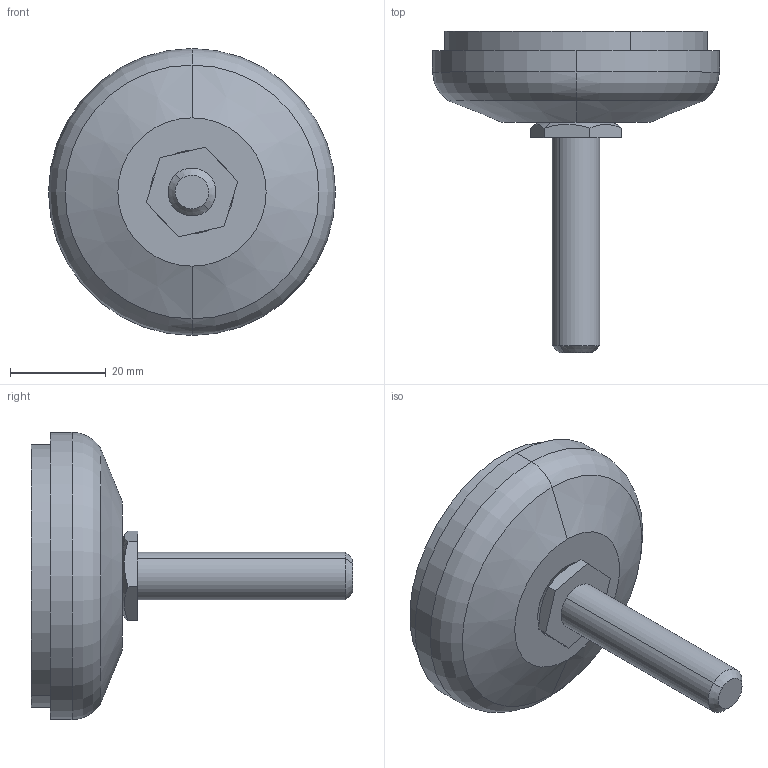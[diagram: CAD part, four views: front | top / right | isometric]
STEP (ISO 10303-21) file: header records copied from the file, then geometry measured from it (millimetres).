
FILE_DESCRIPTION (( 'STEP AP214' ), '1' );
FILE_NAME ('4.431.001.STEP', '2010-03-19T18:09:18', ( '£ukaszC' ), ( '' ), 'SwSTEP 2.0', 'SolidWorks 2008', '' );
FILE_SCHEMA (( 'AUTOMOTIVE_DESIGN' ));
Length unit declared in the file: millimetre
Products named in the file (6): 4.431.001.02; 4.431.001.01; 4.431.001.03; 4.431.001.05; 4.431.001.04; 4.431.001
Assembly tree (5 placements, depth 2):
  4.431.001
    4.431.001.02
    4.431.001.01
    4.431.001.03
    4.431.001.04
    4.431.001.05
Bounding box: 60 x 67.24 x 60 mm (x, y, z)
Volume: 42308.8 mm3; surface area: 18595.4 mm2
Topology: 5 solids, 5 shells, 69 faces, 138 edges, 84 vertices
Faces by surface type: cylinder 22, plane 21, cone 14, torus 10, sphere 2
Entity records: 2031 total; most frequent: DIRECTION 382, CARTESIAN_POINT 299, ORIENTED_EDGE 276, AXIS2_PLACEMENT_3D 167, EDGE_CURVE 138, CIRCLE 90, VERTEX_POINT 84, EDGE_LOOP 80
